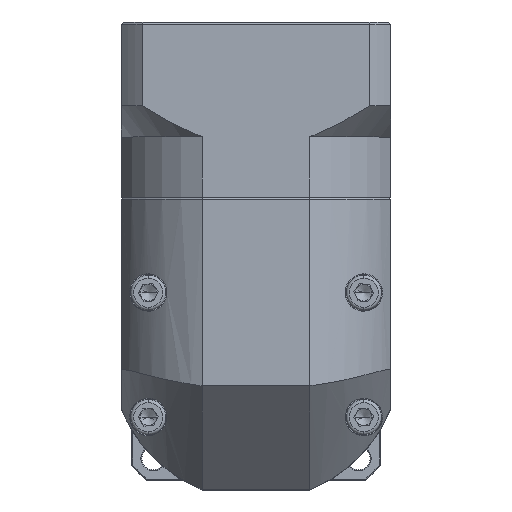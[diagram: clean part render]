
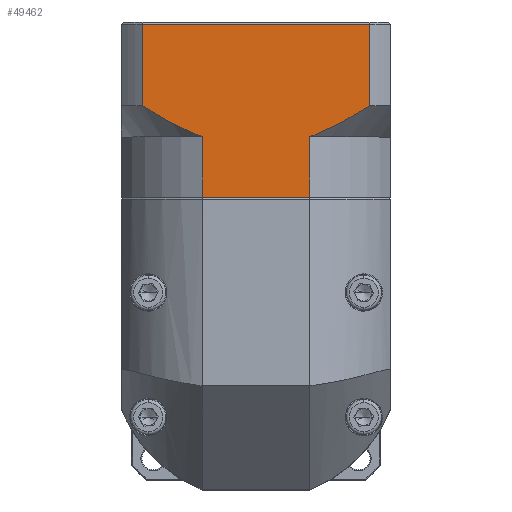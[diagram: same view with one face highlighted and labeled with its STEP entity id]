
A CAD part, top view. The second image highlights one B-rep face of the part: STEP entity #49462.
In plain terms, the highlighted planar face has unit normal (0, 0, 1).
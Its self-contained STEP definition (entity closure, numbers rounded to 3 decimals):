
#3914 = CARTESIAN_POINT ( 'NONE',  ( -48.226, 84.526, 74.497 ) ) ;
#4776 = CARTESIAN_POINT ( 'NONE',  ( -48.226, 84.526, 74.497 ) ) ;
#4796 = ORIENTED_EDGE ( 'NONE', *, *, #22493, .F. ) ;
#5728 = CARTESIAN_POINT ( 'NONE',  ( -38.412, 89.177, 74.497 ) ) ;
#7140 = VECTOR ( 'NONE', #15682, 1000. ) ;
#7599 = DIRECTION ( 'NONE',  ( 0., 1., 0. ) ) ;
#8354 = VECTOR ( 'NONE', #43334, 1000. ) ;
#9700 = VERTEX_POINT ( 'NONE', #3914 ) ;
#13307 = EDGE_CURVE ( 'NONE', #115121, #58657, #76761, .T. ) ;
#15682 = DIRECTION ( 'NONE',  ( 1., 0., 0. ) ) ;
#15772 = ORIENTED_EDGE ( 'NONE', *, *, #49858, .T. ) ;
#16754 = CARTESIAN_POINT ( 'NONE',  ( -45.059, 85.816, 74.497 ) ) ;
#20368 = AXIS2_PLACEMENT_3D ( 'NONE', #106560, #35849, #7599 ) ;
#22171 = EDGE_LOOP ( 'NONE', ( #98563, #36301, #61199, #72537, #101835, #90274, #4796, #15772 ) ) ;
#22493 = EDGE_CURVE ( 'NONE', #9700, #79804, #84631, .T. ) ;
#23893 = CARTESIAN_POINT ( 'NONE',  ( -88.602, 92.026, 74.497 ) ) ;
#24324 = LINE ( 'NONE', #96967, #29859 ) ;
#25249 = CARTESIAN_POINT ( 'NONE',  ( -88.602, 84.526, 74.497 ) ) ;
#29611 = VECTOR ( 'NONE', #42681, 1000. ) ;
#29859 = VECTOR ( 'NONE', #54584, 1000. ) ;
#29984 = CARTESIAN_POINT ( 'NONE',  ( -33.83, 92.026, 74.497 ) ) ;
#32845 = CARTESIAN_POINT ( 'NONE',  ( -74.207, 84.526, 74.497 ) ) ;
#35549 = CARTESIAN_POINT ( 'NONE',  ( -74.207, 84.526, 74.497 ) ) ;
#35849 = DIRECTION ( 'NONE',  ( 0., 0., -1. ) ) ;
#36301 = ORIENTED_EDGE ( 'NONE', *, *, #99485, .T. ) ;
#39199 = LINE ( 'NONE', #59890, #7140 ) ;
#39462 = VECTOR ( 'NONE', #99181, 1000. ) ;
#41376 = CARTESIAN_POINT ( 'NONE',  ( -87.464, 91.293, 74.497 ) ) ;
#41878 = CARTESIAN_POINT ( 'NONE',  ( -48.226, 84.526, 74.497 ) ) ;
#42681 = DIRECTION ( 'NONE',  ( 0., 1., 0. ) ) ;
#43334 = DIRECTION ( 'NONE',  ( 0., 1., 0. ) ) ;
#46317 = CARTESIAN_POINT ( 'NONE',  ( -93.716, 111.726, 74.497 ) ) ;
#46796 = CARTESIAN_POINT ( 'NONE',  ( -74.207, 84.526, 74.497 ) ) ;
#48164 = VERTEX_POINT ( 'NONE', #29984 ) ;
#49182 = CARTESIAN_POINT ( 'NONE',  ( -76.745, 85.468, 74.497 ) ) ;
#49462 = ADVANCED_FACE ( 'NONE', ( #111128 ), #115059, .F. ) ;
#49587 = CARTESIAN_POINT ( 'NONE',  ( -74.207, 70.026, 74.497 ) ) ;
#49794 = VECTOR ( 'NONE', #78865, 1000. ) ;
#49858 = EDGE_CURVE ( 'NONE', #9700, #48164, #62137, .T. ) ;
#50329 = CARTESIAN_POINT ( 'NONE',  ( -83.978, 89.193, 74.497 ) ) ;
#51981 = LINE ( 'NONE', #46317, #39462 ) ;
#54584 = DIRECTION ( 'NONE',  ( 0., -1., 0. ) ) ;
#54711 = CARTESIAN_POINT ( 'NONE',  ( -43.206, 86.667, 74.497 ) ) ;
#58657 = VERTEX_POINT ( 'NONE', #46796 ) ;
#58873 = CARTESIAN_POINT ( 'NONE',  ( -88.602, 92.026, 74.497 ) ) ;
#59890 = CARTESIAN_POINT ( 'NONE',  ( -93.716, 70.026, 74.497 ) ) ;
#61199 = ORIENTED_EDGE ( 'NONE', *, *, #88762, .F. ) ;
#62137 = B_SPLINE_CURVE_WITH_KNOTS ( 'NONE', 3,
 ( #4776, #75891, #84876, #99157, #16754, #54711, #110580, #5728, #104274, #83639 ),
 .UNSPECIFIED., .F., .F.,
 ( 4, 2, 2, 2, 4 ),
 ( 0.101, 0.103, 0.105, 0.109, 0.117 ),
 .UNSPECIFIED. ) ;
#64240 = VERTEX_POINT ( 'NONE', #90778 ) ;
#65277 = LINE ( 'NONE', #35549, #8354 ) ;
#69600 = EDGE_CURVE ( 'NONE', #64240, #48164, #24324, .T. ) ;
#72537 = ORIENTED_EDGE ( 'NONE', *, *, #13307, .T. ) ;
#75891 = CARTESIAN_POINT ( 'NONE',  ( -47.584, 84.764, 74.497 ) ) ;
#76761 = B_SPLINE_CURVE_WITH_KNOTS ( 'NONE', 3,
 ( #58873, #41376, #111297, #50329, #94610, #103160, #49182, #32845 ),
 .UNSPECIFIED., .F., .F.,
 ( 4, 2, 2, 4 ),
 ( 0.058, 0.062, 0.066, 0.074 ),
 .UNSPECIFIED. ) ;
#77204 = VERTEX_POINT ( 'NONE', #100516 ) ;
#78865 = DIRECTION ( 'NONE',  ( 0., -1., 0. ) ) ;
#79804 = VERTEX_POINT ( 'NONE', #93052 ) ;
#80527 = VERTEX_POINT ( 'NONE', #49587 ) ;
#83639 = CARTESIAN_POINT ( 'NONE',  ( -33.83, 92.026, 74.497 ) ) ;
#84631 = LINE ( 'NONE', #41878, #49794 ) ;
#84876 = CARTESIAN_POINT ( 'NONE',  ( -46.945, 85.017, 74.497 ) ) ;
#88762 = EDGE_CURVE ( 'NONE', #115121, #77204, #110156, .T. ) ;
#90274 = ORIENTED_EDGE ( 'NONE', *, *, #105562, .T. ) ;
#90778 = CARTESIAN_POINT ( 'NONE',  ( -33.83, 111.726, 74.497 ) ) ;
#93052 = CARTESIAN_POINT ( 'NONE',  ( -48.226, 70.026, 74.497 ) ) ;
#94610 = CARTESIAN_POINT ( 'NONE',  ( -82.792, 88.523, 74.497 ) ) ;
#96967 = CARTESIAN_POINT ( 'NONE',  ( -33.83, 84.526, 74.497 ) ) ;
#98563 = ORIENTED_EDGE ( 'NONE', *, *, #69600, .F. ) ;
#99157 = CARTESIAN_POINT ( 'NONE',  ( -45.683, 85.543, 74.497 ) ) ;
#99181 = DIRECTION ( 'NONE',  ( -1., 0., 0. ) ) ;
#99485 = EDGE_CURVE ( 'NONE', #64240, #77204, #51981, .T. ) ;
#100516 = CARTESIAN_POINT ( 'NONE',  ( -88.602, 111.726, 74.497 ) ) ;
#101835 = ORIENTED_EDGE ( 'NONE', *, *, #102864, .F. ) ;
#102864 = EDGE_CURVE ( 'NONE', #80527, #58657, #65277, .T. ) ;
#103160 = CARTESIAN_POINT ( 'NONE',  ( -79.197, 86.613, 74.497 ) ) ;
#104274 = CARTESIAN_POINT ( 'NONE',  ( -36.098, 90.564, 74.497 ) ) ;
#105562 = EDGE_CURVE ( 'NONE', #80527, #79804, #39199, .T. ) ;
#106560 = CARTESIAN_POINT ( 'NONE',  ( -93.716, 112.226, 74.497 ) ) ;
#110156 = LINE ( 'NONE', #25249, #29611 ) ;
#110580 = CARTESIAN_POINT ( 'NONE',  ( -41.993, 87.272, 74.497 ) ) ;
#111128 = FACE_OUTER_BOUND ( 'NONE', #22171, .T. ) ;
#111297 = CARTESIAN_POINT ( 'NONE',  ( -86.313, 90.577, 74.497 ) ) ;
#115059 = PLANE ( 'NONE',  #20368 ) ;
#115121 = VERTEX_POINT ( 'NONE', #23893 ) ;
